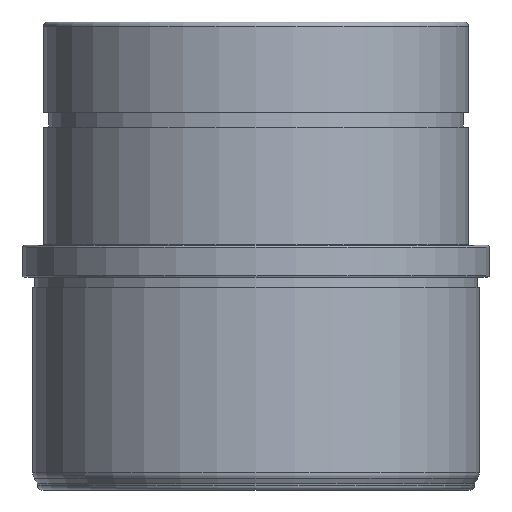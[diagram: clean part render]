
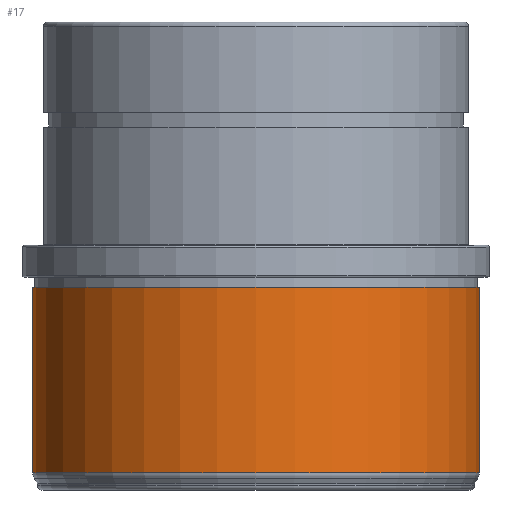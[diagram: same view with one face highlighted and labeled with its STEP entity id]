
A CAD part, front view. The second image highlights one B-rep face of the part: STEP entity #17.
In plain terms, the highlighted cylindrical face has radius 33.326 mm (diameter 66.652 mm), a full revolution.
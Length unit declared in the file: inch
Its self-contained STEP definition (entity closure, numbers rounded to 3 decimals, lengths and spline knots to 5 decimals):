
#17 = ADVANCED_FACE ( 'NONE', ( #60, #420 ), #278, .T. ) ;
#39 = EDGE_CURVE ( 'NONE', #374, #374, #324, .T. ) ;
#56 = CARTESIAN_POINT ( 'NONE',  ( -1.31205, 0., -2.64836 ) ) ;
#60 = FACE_OUTER_BOUND ( 'NONE', #488, .T. ) ;
#62 = DIRECTION ( 'NONE',  ( 0., 0., 1. ) ) ;
#142 = AXIS2_PLACEMENT_3D ( 'NONE', #153, #194, #192 ) ;
#153 = CARTESIAN_POINT ( 'NONE',  ( 0., 0., -2.64836 ) ) ;
#192 = DIRECTION ( 'NONE',  ( -1., 0., 0. ) ) ;
#194 = DIRECTION ( 'NONE',  ( 0., 0., 1. ) ) ;
#240 = DIRECTION ( 'NONE',  ( 0., 0., -1. ) ) ;
#241 = CARTESIAN_POINT ( 'NONE',  ( 0., 0., -2.75 ) ) ;
#278 = CYLINDRICAL_SURFACE ( 'NONE', #498, 1.31205 ) ;
#280 = DIRECTION ( 'NONE',  ( -1., 0., 0. ) ) ;
#324 = CIRCLE ( 'NONE', #142, 1.31205 ) ;
#326 = AXIS2_PLACEMENT_3D ( 'NONE', #515, #240, #280 ) ;
#373 = CIRCLE ( 'NONE', #326, 1.31205 ) ;
#374 = VERTEX_POINT ( 'NONE', #56 ) ;
#411 = ORIENTED_EDGE ( 'NONE', *, *, #39, .T. ) ;
#420 = FACE_OUTER_BOUND ( 'NONE', #548, .T. ) ;
#488 = EDGE_LOOP ( 'NONE', ( #411 ) ) ;
#491 = ORIENTED_EDGE ( 'NONE', *, *, #547, .T. ) ;
#498 = AXIS2_PLACEMENT_3D ( 'NONE', #241, #62, #552 ) ;
#515 = CARTESIAN_POINT ( 'NONE',  ( 0., 0., -1.559 ) ) ;
#547 = EDGE_CURVE ( 'NONE', #569, #569, #373, .T. ) ;
#548 = EDGE_LOOP ( 'NONE', ( #491 ) ) ;
#552 = DIRECTION ( 'NONE',  ( 1., 0., 0. ) ) ;
#569 = VERTEX_POINT ( 'NONE', #571 ) ;
#571 = CARTESIAN_POINT ( 'NONE',  ( -1.31205, 0., -1.559 ) ) ;
